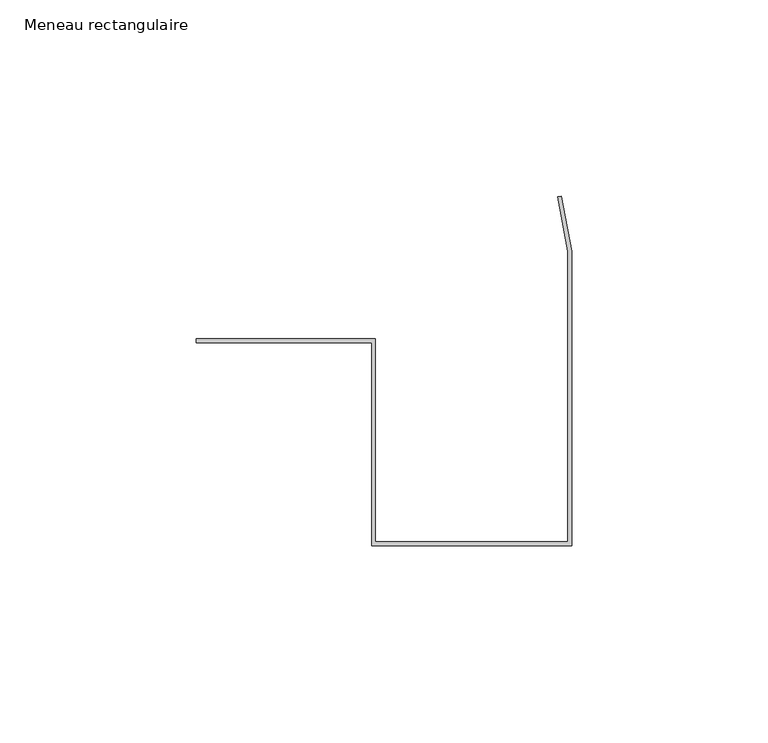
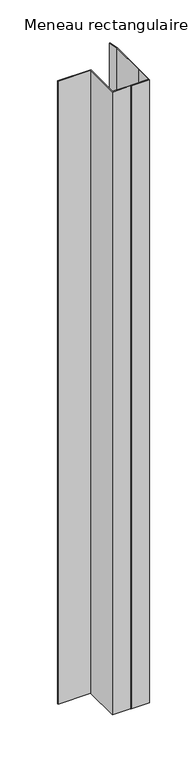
"""IFC4 building model written with IfcOpenShell, lengths in millimetres: member geometry, Meneau rectangulaire : Jonction contre mur Droite H."""

from ifc_helpers import new_model, si_unit, frame, origin, place, context, project, spatial, polyline, outline, extrude, source, transform, mapped, element, save


def meneau_rectangulaire_0711325e(model_context):
    return source(origin(), model_context, "Body", "SweptSolid", [
        extrude(outline(polyline([(-1.0, 26.3798616), (-3.6043568, 40.2461331), (-2.6384309, 40.4275528), (0.0, 26.3798616), (0.0, -23.6201384), (0.0, -48.6201384), (-25.0, -48.6201384), (-26.0, -48.6201384), (-51.0, -48.6201384), (-51.0, 3.1), (-95.6686418, 3.1), (-95.6686418, 4.1), (-50.0, 4.1), (-50.0, -47.6201384), (-26.0, -47.6201384), (-25.0, -47.6201384), (-1.0, -47.6201384), (-1.0, -23.6201384), (-1.0, 26.3798616)])), frame((0.0, 0.0, -899.6451617), z_axis=(0.0, 0.0, 1.0), x_axis=(1.0, 0.0, 0.0)), (0.0, 0.0, 1.0), 899.6451617),
    ])


if __name__ == "__main__":
    model = new_model("IFC4")
    model_context = context("Model", 3, world=origin())
    ifc_project = project(units=[si_unit("LENGTHUNIT", "METRE", prefix="MILLI")], contexts=[model_context])
    site = spatial("IfcSite", under=ifc_project)
    building = spatial("IfcBuilding", under=site)
    placement = place(None, origin())
    meneau_rectangulaire_shape = meneau_rectangulaire_0711325e(model_context)
    element("IfcMember", 1, ObjectType="Meneau rectangulaire : Jonction contre mur Droite H", at=placement, inside=building, context=model_context, shape_type="MappedRepresentation", body=[
        mapped(meneau_rectangulaire_shape, transform((0.0, 0.0, 0.0), x_axis=(1.0, 0.0, 0.0), y_axis=(0.0, 1.0, 0.0), z_axis=(0.0, 0.0, 1.0))),
    ])
    save(model, "model.ifc")
